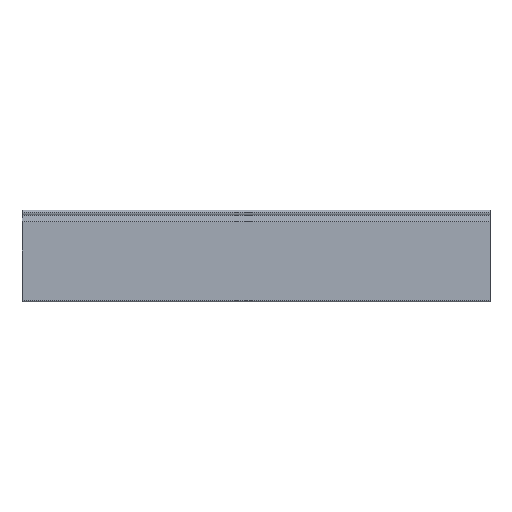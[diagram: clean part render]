
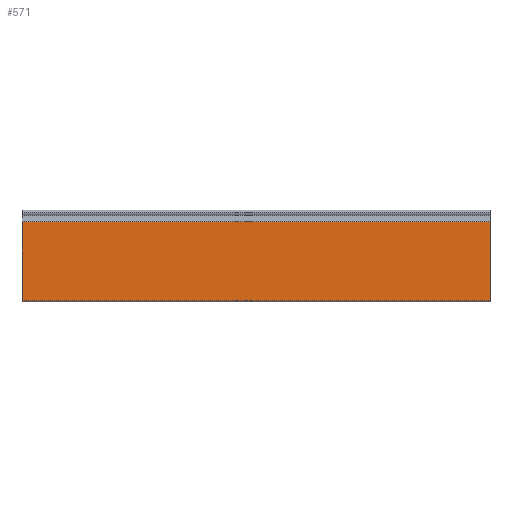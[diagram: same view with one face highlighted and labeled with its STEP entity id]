
A CAD part, top view. The second image highlights one B-rep face of the part: STEP entity #571.
In plain terms, the highlighted planar face has unit normal (0, 0, 1).
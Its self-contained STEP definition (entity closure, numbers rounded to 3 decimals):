
#62 = VERTEX_POINT ( 'NONE', #236 ) ;
#83 = VERTEX_POINT ( 'NONE', #254 ) ;
#89 = VERTEX_POINT ( 'NONE', #260 ) ;
#221 = VERTEX_POINT ( 'NONE', #291 ) ;
#236 = CARTESIAN_POINT ( 'NONE',  ( -325., -12.164, 4.05 ) ) ;
#254 = CARTESIAN_POINT ( 'NONE',  ( 325., -121.663, 4.05 ) ) ;
#260 = CARTESIAN_POINT ( 'NONE',  ( 325., -12.164, 4.05 ) ) ;
#291 = CARTESIAN_POINT ( 'NONE',  ( -325., -121.663, 4.05 ) ) ;
#390 = PLANE ( 'NONE',  #1285 ) ;
#393 = CARTESIAN_POINT ( 'NONE',  ( 325., -12.164, 4.05 ) ) ;
#399 = DIRECTION ( 'NONE',  ( 0., 0., -1. ) ) ;
#400 = DIRECTION ( 'NONE',  ( 0., 1., 0. ) ) ;
#474 = CARTESIAN_POINT ( 'NONE',  ( -325., -12.164, 4.05 ) ) ;
#475 = DIRECTION ( 'NONE',  ( 0., -1., 0. ) ) ;
#571 = ADVANCED_FACE ( 'NONE', ( #1143 ), #390, .F. ) ;
#618 = LINE ( 'NONE', #474, #619 ) ;
#619 = VECTOR ( 'NONE', #475, 1000. ) ;
#704 = LINE ( 'NONE', #796, #706 ) ;
#706 = VECTOR ( 'NONE', #797, 1000. ) ;
#796 = CARTESIAN_POINT ( 'NONE',  ( 325., -12.164, 4.05 ) ) ;
#797 = DIRECTION ( 'NONE',  ( 0., -1., 0. ) ) ;
#831 = CARTESIAN_POINT ( 'NONE',  ( 325., -12.164, 4.05 ) ) ;
#832 = DIRECTION ( 'NONE',  ( -1., 0., 0. ) ) ;
#833 = CARTESIAN_POINT ( 'NONE',  ( 325., -121.663, 4.05 ) ) ;
#834 = DIRECTION ( 'NONE',  ( -1., 0., 0. ) ) ;
#924 = LINE ( 'NONE', #831, #925 ) ;
#925 = VECTOR ( 'NONE', #832, 1000. ) ;
#926 = LINE ( 'NONE', #833, #927 ) ;
#927 = VECTOR ( 'NONE', #834, 1000. ) ;
#1040 = ORIENTED_EDGE ( 'NONE', *, *, #1231, .T. ) ;
#1041 = ORIENTED_EDGE ( 'NONE', *, *, #1216, .F. ) ;
#1042 = ORIENTED_EDGE ( 'NONE', *, *, #1232, .F. ) ;
#1043 = ORIENTED_EDGE ( 'NONE', *, *, #1158, .T. ) ;
#1066 = EDGE_LOOP ( 'NONE', ( #1043, #1042, #1041, #1040 ) ) ;
#1143 = FACE_OUTER_BOUND ( 'NONE', #1066, .T. ) ;
#1158 = EDGE_CURVE ( 'NONE', #62, #221, #618, .T. ) ;
#1216 = EDGE_CURVE ( 'NONE', #89, #83, #704, .T. ) ;
#1231 = EDGE_CURVE ( 'NONE', #89, #62, #924, .T. ) ;
#1232 = EDGE_CURVE ( 'NONE', #83, #221, #926, .T. ) ;
#1285 = AXIS2_PLACEMENT_3D ( 'NONE', #393, #399, #400 ) ;
